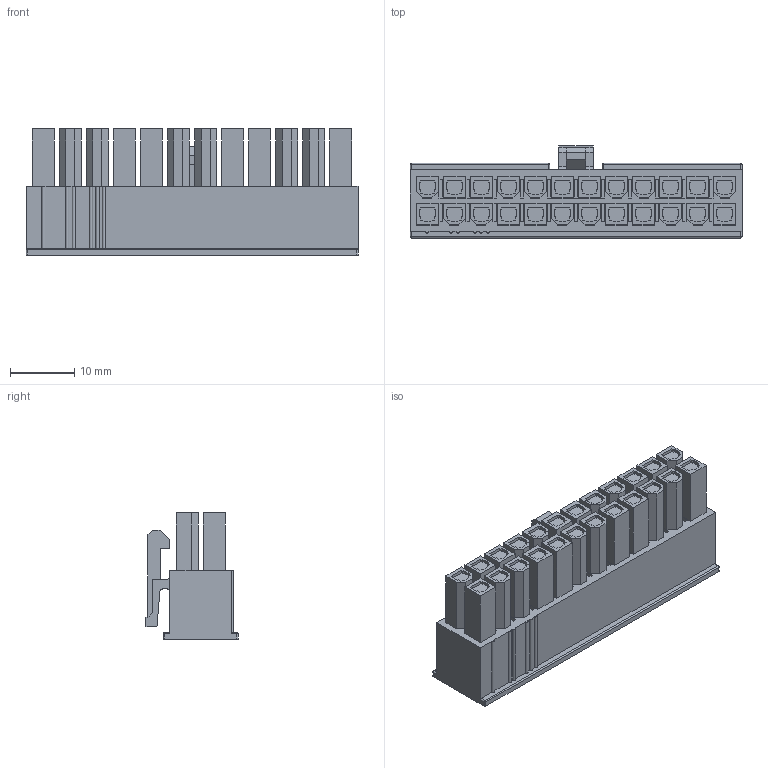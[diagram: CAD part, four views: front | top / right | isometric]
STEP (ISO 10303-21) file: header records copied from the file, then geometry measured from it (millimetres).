
FILE_DESCRIPTION((''),'2;1');
FILE_NAME('57956-024HXXX-XXX','2018-02-03T',('d33379'),(''),'CREO PARAMETRIC BY PTC INC, 2014500','CREO PARAMETRIC BY PTC INC, 2014500','');
FILE_SCHEMA(('CONFIG_CONTROL_DESIGN'));
Length unit declared in the file: millimetre
Products named in the file (1): 57956-024HXXX-XXX
Bounding box: 51.6 x 14.3 x 19.6 mm (x, y, z)
Volume: 7614.2 mm3; surface area: 5989.4 mm2
Topology: 1 solids, 1 shells, 1024 faces, 2738 edges, 1818 vertices
Faces by surface type: plane 991, cylinder 27, sphere 6
Entity records: 31302 total; most frequent: CARTESIAN_POINT 5580, ORIENTED_EDGE 5476, DIRECTION 4840, EDGE_CURVE 2738, VECTOR 2684, LINE 2684, VERTEX_POINT 1818, EDGE_LOOP 1128
